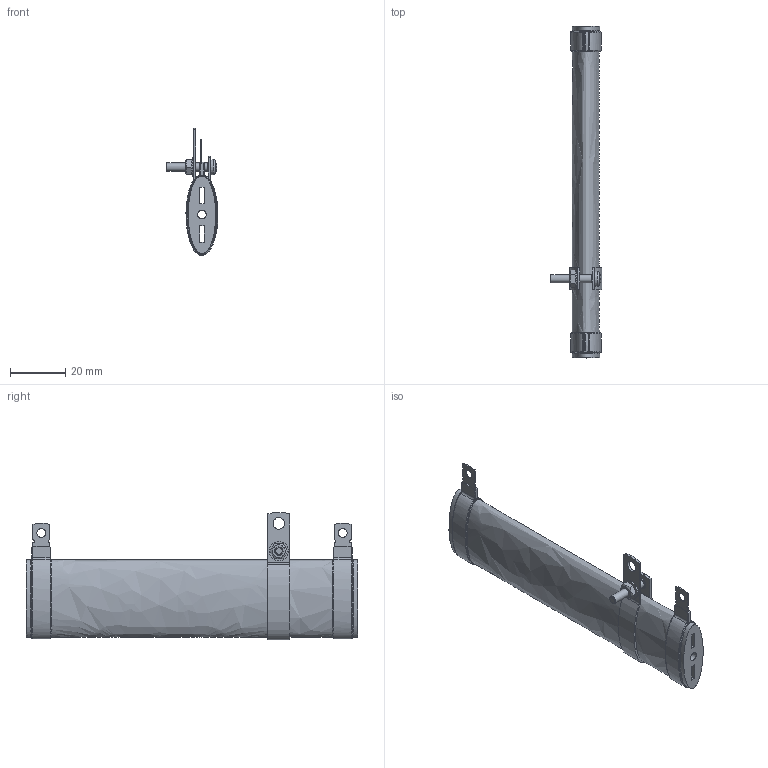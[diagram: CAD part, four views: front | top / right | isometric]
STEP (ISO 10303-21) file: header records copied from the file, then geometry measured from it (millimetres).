
FILE_DESCRIPTION(/* description */ (''),/* implementation_level */ '2;1');
FILE_NAME(/* name */ 'C:\_Vault\Dati\CATALOGO\RCE\RCER-RSER 31-91\CER0068.stp',/* time_stamp */ '2014-01-22T16:27:17+01:00',/* author */ ('stefano'),/* organization */ (''),/* preprocessor_version */ 'ST-DEVELOPER v15.2',/* originating_system */ 'Autodesk Inventor 2014',/* authorisation */ '');
FILE_SCHEMA (('AUTOMOTIVE_DESIGN { 1 0 10303 214 3 1 1 }'));
Length unit declared in the file: millimetre
Products named in the file (1): CER0068
Bounding box: 18.8 x 120 x 46 mm (x, y, z)
Volume: 23547.7 mm3; surface area: 14694.5 mm2
Topology: 93 solids, 93 shells, 755 faces, 1587 edges, 978 vertices
Faces by surface type: plane 563, bspline 123, cylinder 39, cone 16, torus 13, sphere 1
Full cylindrical faces by diameter (mm): 2.729 x1, 3 x2, 3.1 x1, 3.2 x3, 4.2 x3, 7 x1
Entity records: 22736 total; most frequent: CARTESIAN_POINT 6209, ORIENTED_EDGE 3304, DIRECTION 3162, EDGE_CURVE 1560, AXIS2_PLACEMENT_3D 1087, LINE 988, VECTOR 988, VERTEX_POINT 975
